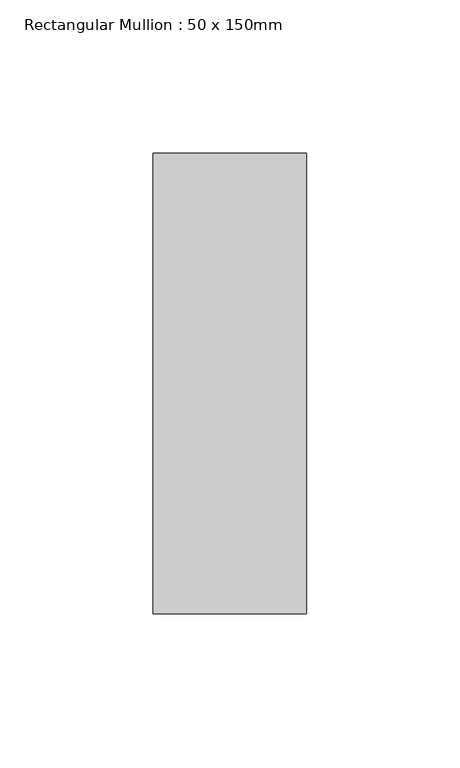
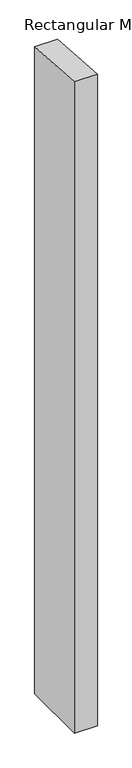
"""IFC4 building model written with IfcOpenShell, lengths in millimetres: member geometry, Rectangular Mullion : 50 x 150mm."""

from ifc_helpers import new_model, si_unit, origin, place, context, project, spatial, faceted_brep, source, transform, mapped, element, save


def rectangular_mullion_50_x_150mm_90fb33a8(model_context):
    return source(origin(), model_context, "Body", "Brep", [
        faceted_brep([(0.0, 75.0, -1497.4621474), (0.0, -75.0, -1497.4621474), (-50.0, -75.0, -1497.4621474), (-50.0, 75.0, -1497.4621474), (-50.0, 75.0, -4.7615129), (0.0, 75.0, -4.7433835), (-50.0, -75.0, 4.725254), (0.0, -75.0, 4.7433835)], [[[0, 1, 2, 3]], [[4, 5, 0, 3]], [[6, 4, 3, 2]], [[7, 6, 2, 1]], [[5, 7, 1, 0]], [[5, 4, 6, 7]]]),
    ])


if __name__ == "__main__":
    model = new_model("IFC4")
    model_context = context("Model", 3, world=origin())
    ifc_project = project(units=[si_unit("LENGTHUNIT", "METRE", prefix="MILLI")], contexts=[model_context])
    site = spatial("IfcSite", under=ifc_project)
    building = spatial("IfcBuilding", under=site)
    placement = place(None, origin())
    rectangular_mullion_50_x_150mm_shape = rectangular_mullion_50_x_150mm_90fb33a8(model_context)
    element("IfcMember", 1, ObjectType="Rectangular Mullion : 50 x 150mm", at=placement, inside=building, context=model_context, shape_type="MappedRepresentation", body=[
        mapped(rectangular_mullion_50_x_150mm_shape, transform((0.0, 0.0, 0.0), x_axis=(1.0, 0.0, 0.0), y_axis=(0.0, 1.0, 0.0), z_axis=(0.0, 0.0, 1.0))),
    ])
    save(model, "model.ifc")
